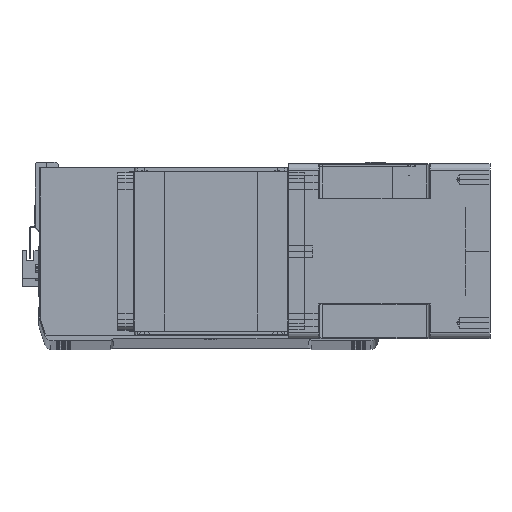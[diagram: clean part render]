
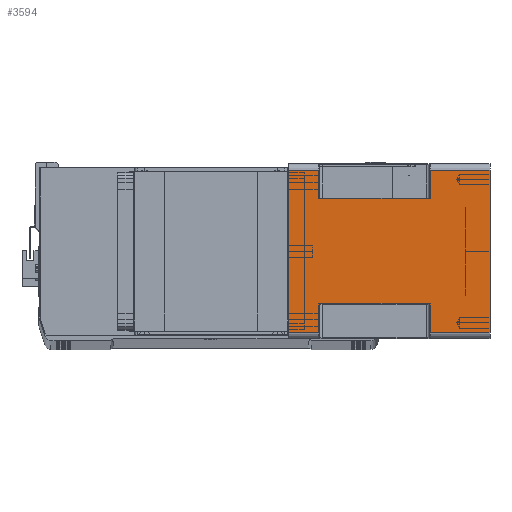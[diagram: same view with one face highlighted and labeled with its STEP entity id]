
A CAD part, top view. The second image highlights one B-rep face of the part: STEP entity #3594.
In plain terms, the highlighted planar face has unit normal (0, 0, 1) as drawn and (1, 0, 0) by its records, which use the part's own axes.
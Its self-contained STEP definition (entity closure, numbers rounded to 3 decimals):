
#401 = ORIENTED_EDGE ( 'NONE', *, *, #17069, .T. ) ;
#450 = DIRECTION ( 'NONE',  ( 0., -1., 0. ) ) ;
#766 = ORIENTED_EDGE ( 'NONE', *, *, #24719, .F. ) ;
#1389 = CARTESIAN_POINT ( 'NONE',  ( 71., -43., -24.5 ) ) ;
#2014 = VECTOR ( 'NONE', #36181, 1000. ) ;
#2016 = LINE ( 'NONE', #19170, #11643 ) ;
#2250 = EDGE_CURVE ( 'NONE', #28141, #33814, #26236, .T. ) ;
#2563 = EDGE_CURVE ( 'NONE', #15542, #8890, #34488, .T. ) ;
#2762 = ORIENTED_EDGE ( 'NONE', *, *, #13281, .F. ) ;
#2981 = DIRECTION ( 'NONE',  ( 0., 0., 1. ) ) ;
#3299 = LINE ( 'NONE', #31055, #33045 ) ;
#3594 = ADVANCED_FACE ( 'NONE', ( #26939 ), #25241, .T. ) ;
#4141 = DIRECTION ( 'NONE',  ( 0., -1., 0. ) ) ;
#4240 = CARTESIAN_POINT ( 'NONE',  ( 71., 66., -115.5 ) ) ;
#6461 = VERTEX_POINT ( 'NONE', #24220 ) ;
#6920 = CARTESIAN_POINT ( 'NONE',  ( 71., -66., 0. ) ) ;
#7723 = DIRECTION ( 'NONE',  ( 0., 1., 0. ) ) ;
#7737 = VERTEX_POINT ( 'NONE', #31850 ) ;
#7805 = ORIENTED_EDGE ( 'NONE', *, *, #2250, .T. ) ;
#7826 = VERTEX_POINT ( 'NONE', #29402 ) ;
#8076 = EDGE_CURVE ( 'NONE', #34333, #6461, #3299, .T. ) ;
#8521 = EDGE_CURVE ( 'NONE', #28141, #34095, #36273, .T. ) ;
#8868 = EDGE_CURVE ( 'NONE', #10649, #6461, #19140, .T. ) ;
#8890 = VERTEX_POINT ( 'NONE', #4240 ) ;
#10306 = LINE ( 'NONE', #1389, #10730 ) ;
#10649 = VERTEX_POINT ( 'NONE', #34732 ) ;
#10656 = EDGE_CURVE ( 'NONE', #7826, #33814, #11034, .T. ) ;
#10730 = VECTOR ( 'NONE', #15825, 1000. ) ;
#10910 = CARTESIAN_POINT ( 'NONE',  ( 71., -43., -164. ) ) ;
#11034 = LINE ( 'NONE', #29448, #33488 ) ;
#11091 = VECTOR ( 'NONE', #2981, 1000. ) ;
#11602 = ORIENTED_EDGE ( 'NONE', *, *, #31243, .T. ) ;
#11643 = VECTOR ( 'NONE', #7723, 1000. ) ;
#11889 = ORIENTED_EDGE ( 'NONE', *, *, #10656, .F. ) ;
#13281 = EDGE_CURVE ( 'NONE', #7737, #26112, #34096, .T. ) ;
#13481 = ORIENTED_EDGE ( 'NONE', *, *, #21937, .T. ) ;
#15542 = VERTEX_POINT ( 'NONE', #16237 ) ;
#15825 = DIRECTION ( 'NONE',  ( 0., 1., 0. ) ) ;
#16030 = VECTOR ( 'NONE', #25984, 1000. ) ;
#16237 = CARTESIAN_POINT ( 'NONE',  ( 71., 66., -164. ) ) ;
#17069 = EDGE_CURVE ( 'NONE', #22618, #34095, #10306, .T. ) ;
#17411 = CARTESIAN_POINT ( 'NONE',  ( 71., 66., -164. ) ) ;
#18520 = ORIENTED_EDGE ( 'NONE', *, *, #8521, .F. ) ;
#19140 = LINE ( 'NONE', #6920, #23710 ) ;
#19170 = CARTESIAN_POINT ( 'NONE',  ( 71., -66., -164. ) ) ;
#20099 = CARTESIAN_POINT ( 'NONE',  ( 71., -66., -24.5 ) ) ;
#20919 = CARTESIAN_POINT ( 'NONE',  ( 71., -66., -115.5 ) ) ;
#21148 = VECTOR ( 'NONE', #21437, 1000. ) ;
#21398 = CARTESIAN_POINT ( 'NONE',  ( 71., -43., -115.5 ) ) ;
#21437 = DIRECTION ( 'NONE',  ( 0., 0., 1. ) ) ;
#21700 = CARTESIAN_POINT ( 'NONE',  ( 71., 43., -164. ) ) ;
#21937 = EDGE_CURVE ( 'NONE', #8890, #26112, #26283, .T. ) ;
#22299 = DIRECTION ( 'NONE',  ( 1., 0., 0. ) ) ;
#22555 = CARTESIAN_POINT ( 'NONE',  ( 71., -66., -164. ) ) ;
#22618 = VERTEX_POINT ( 'NONE', #36482 ) ;
#22997 = DIRECTION ( 'NONE',  ( 0., 0., 1. ) ) ;
#23710 = VECTOR ( 'NONE', #27380, 1000. ) ;
#23752 = VECTOR ( 'NONE', #31660, 1000. ) ;
#24207 = EDGE_CURVE ( 'NONE', #7826, #15542, #2016, .T. ) ;
#24220 = CARTESIAN_POINT ( 'NONE',  ( 71., 66., 0. ) ) ;
#24719 = EDGE_CURVE ( 'NONE', #22618, #10649, #35471, .T. ) ;
#25241 = PLANE ( 'NONE',  #30948 ) ;
#25499 = DIRECTION ( 'NONE',  ( 0., 1., 0. ) ) ;
#25984 = DIRECTION ( 'NONE',  ( 0., 1., 0. ) ) ;
#26112 = VERTEX_POINT ( 'NONE', #26459 ) ;
#26236 = LINE ( 'NONE', #30123, #32705 ) ;
#26283 = LINE ( 'NONE', #35604, #35549 ) ;
#26459 = CARTESIAN_POINT ( 'NONE',  ( 71., 43., -115.5 ) ) ;
#26939 = FACE_OUTER_BOUND ( 'NONE', #28511, .T. ) ;
#27380 = DIRECTION ( 'NONE',  ( 0., 1., 0. ) ) ;
#27622 = CARTESIAN_POINT ( 'NONE',  ( 71., -66., -164. ) ) ;
#27993 = ORIENTED_EDGE ( 'NONE', *, *, #8076, .T. ) ;
#28141 = VERTEX_POINT ( 'NONE', #21398 ) ;
#28511 = EDGE_LOOP ( 'NONE', ( #18520, #7805, #11889, #29765, #33161, #13481, #2762, #11602, #27993, #28833, #766, #401 ) ) ;
#28833 = ORIENTED_EDGE ( 'NONE', *, *, #8868, .F. ) ;
#29402 = CARTESIAN_POINT ( 'NONE',  ( 71., -66., -164. ) ) ;
#29448 = CARTESIAN_POINT ( 'NONE',  ( 71., -66., -164. ) ) ;
#29765 = ORIENTED_EDGE ( 'NONE', *, *, #24207, .T. ) ;
#30123 = CARTESIAN_POINT ( 'NONE',  ( 71., -66., -115.5 ) ) ;
#30948 = AXIS2_PLACEMENT_3D ( 'NONE', #22555, #22299, #25499 ) ;
#31055 = CARTESIAN_POINT ( 'NONE',  ( 71., 66., -164. ) ) ;
#31243 = EDGE_CURVE ( 'NONE', #7737, #34333, #31631, .T. ) ;
#31444 = CARTESIAN_POINT ( 'NONE',  ( 71., -43., -24.5 ) ) ;
#31631 = LINE ( 'NONE', #20099, #16030 ) ;
#31660 = DIRECTION ( 'NONE',  ( 0., 0., 1. ) ) ;
#31850 = CARTESIAN_POINT ( 'NONE',  ( 71., 43., -24.5 ) ) ;
#32705 = VECTOR ( 'NONE', #4141, 1000. ) ;
#33045 = VECTOR ( 'NONE', #37138, 1000. ) ;
#33161 = ORIENTED_EDGE ( 'NONE', *, *, #2563, .T. ) ;
#33488 = VECTOR ( 'NONE', #22997, 1000. ) ;
#33814 = VERTEX_POINT ( 'NONE', #20919 ) ;
#34095 = VERTEX_POINT ( 'NONE', #31444 ) ;
#34096 = LINE ( 'NONE', #21700, #2014 ) ;
#34333 = VERTEX_POINT ( 'NONE', #35327 ) ;
#34488 = LINE ( 'NONE', #17411, #11091 ) ;
#34732 = CARTESIAN_POINT ( 'NONE',  ( 71., -66., 0. ) ) ;
#35327 = CARTESIAN_POINT ( 'NONE',  ( 71., 66., -24.5 ) ) ;
#35471 = LINE ( 'NONE', #27622, #21148 ) ;
#35549 = VECTOR ( 'NONE', #450, 1000. ) ;
#35604 = CARTESIAN_POINT ( 'NONE',  ( 71., 43., -115.5 ) ) ;
#36181 = DIRECTION ( 'NONE',  ( 0., 0., -1. ) ) ;
#36273 = LINE ( 'NONE', #10910, #23752 ) ;
#36482 = CARTESIAN_POINT ( 'NONE',  ( 71., -66., -24.5 ) ) ;
#37138 = DIRECTION ( 'NONE',  ( 0., 0., 1. ) ) ;
